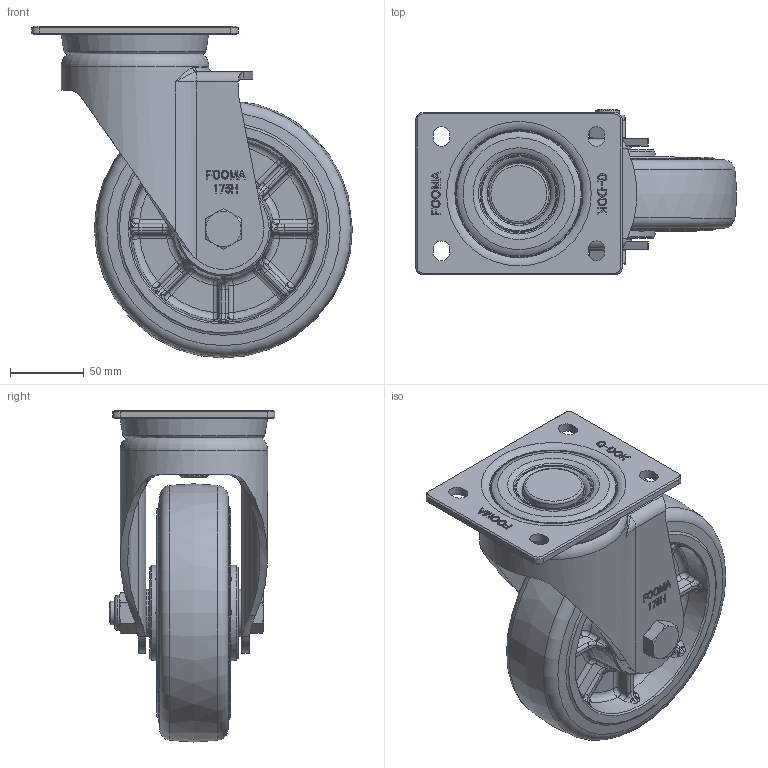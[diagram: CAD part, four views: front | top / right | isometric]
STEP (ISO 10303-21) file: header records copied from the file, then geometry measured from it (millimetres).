
FILE_DESCRIPTION(/* description */ (''),/* implementation_level */ '2;1');
FILE_NAME(/* name */ 'Y:\1.기술연구소\2.연구개발 진행중\94.PLM 고하중 개발\1.도면\3D\홈페이지용 3D\GHP-175-ASF-MUD-PEU.stp',/* time_stamp */ '2024-04-24T11:19:35+09:00',/* author */ ('장용하'),/* organization */ (''),/* preprocessor_version */ 'ST-DEVELOPER v18.1',/* originating_system */ 'Autodesk Inventor 2021',/* authorisation */ '');
FILE_SCHEMA (('AUTOMOTIVE_DESIGN { 1 0 10303 214 3 1 1 }'));
Products named in the file (1): GHP-175-ASF-MUD-PEU_Shrinkwrap_1
Bounding box: 217.38 x 112.5 x 225.03 mm (x, y, z)
Volume: 1279481.3 mm3; surface area: 203416.2 mm2
Topology: 1 solids, 1 shells, 1397 faces, 3469 edges, 2122 vertices
Faces by surface type: bspline 597, plane 427, cylinder 260, torus 64, cone 49
Full cylindrical faces by diameter (mm): 16 x1, 20 x1, 22.49 x1, 24 x1, 32 x2, 41 x1, 72 x2, 74 x1, 86 x1, 90 x1, 100 x1
Entity records: 52310 total; most frequent: CARTESIAN_POINT 22620, ORIENTED_EDGE 6930, DIRECTION 4908, EDGE_CURVE 3465, VERTEX_POINT 2122, AXIS2_PLACEMENT_3D 1816, EDGE_LOOP 1459, FACE_OUTER_BOUND 1397
